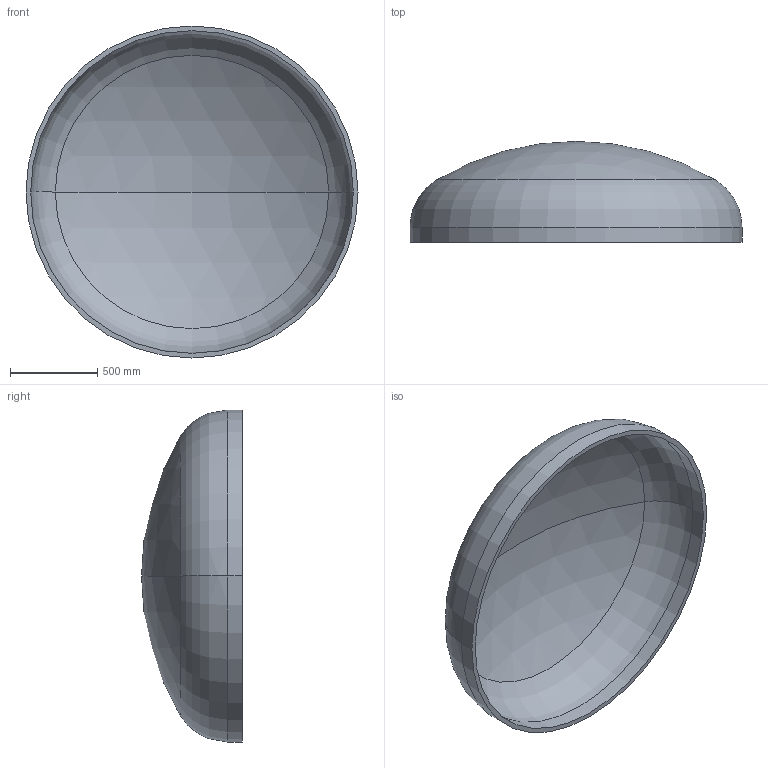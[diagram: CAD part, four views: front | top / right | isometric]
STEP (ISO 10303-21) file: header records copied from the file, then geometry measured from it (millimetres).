
FILE_DESCRIPTION (( 'STEP AP203' ), '1' );
FILE_NAME ('DIN 28013 Korbbogenform_-_Boden DIN 28013 - 1900 x 85 - I - s=27.step', '2016-07-01T13:02:37', ( '' ), ( '' ), 'SwSTEP 2.0', 'SolidWorks 2013', '' );
FILE_SCHEMA (( 'CONFIG_CONTROL_DESIGN' ));
Length unit declared in the file: millimetre
Products named in the file (1): DIN 28013 Korbbogenform_-_Boden DIN 28013 - 1900 x 85 - I - s=27
Bounding box: 1900 x 577.39 x 1900 mm (x, y, z)
Volume: 117374566.3 mm3; surface area: 8854809.6 mm2
Topology: 1 solids, 1 shells, 13 faces, 24 edges, 14 vertices
Faces by surface type: torus 4, cylinder 4, sphere 4, plane 1
Entity records: 407 total; most frequent: DIRECTION 72, CARTESIAN_POINT 52, ORIENTED_EDGE 48, AXIS2_PLACEMENT_3D 34, EDGE_CURVE 24, CIRCLE 20, EDGE_LOOP 14, VERTEX_POINT 14
